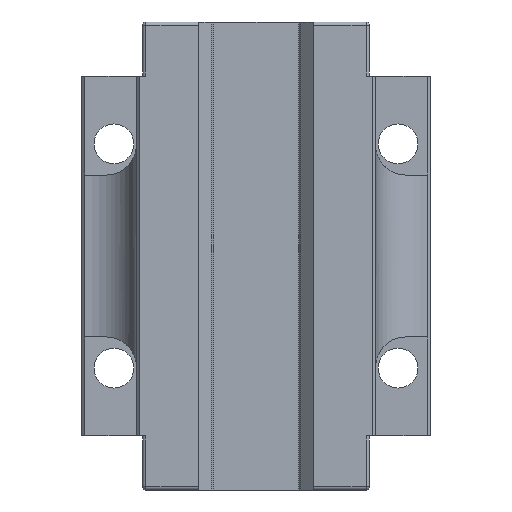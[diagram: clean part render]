
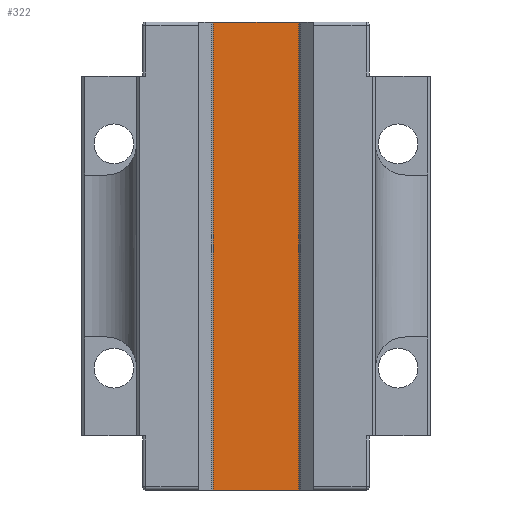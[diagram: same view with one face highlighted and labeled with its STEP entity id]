
A CAD part, front view. The second image highlights one B-rep face of the part: STEP entity #322.
In plain terms, the highlighted planar face has unit normal (0, -1, 0).
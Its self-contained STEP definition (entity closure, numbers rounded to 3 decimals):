
#146 = LINE ( 'NONE', #1291, #1525 ) ;
#313 = ORIENTED_EDGE ( 'NONE', *, *, #351, .T. ) ;
#322 = ADVANCED_FACE ( 'NONE', ( #2135 ), #1058, .F. ) ;
#346 = EDGE_CURVE ( 'NONE', #2897, #2716, #146, .T. ) ;
#351 = EDGE_CURVE ( 'NONE', #1445, #2897, #1028, .T. ) ;
#373 = DIRECTION ( 'NONE',  ( 0., 0., 1. ) ) ;
#452 = CARTESIAN_POINT ( 'NONE',  ( -10.25, 19.2, -46.95 ) ) ;
#493 = CARTESIAN_POINT ( 'NONE',  ( -10.25, 19.2, -46.95 ) ) ;
#530 = LINE ( 'NONE', #2031, #2505 ) ;
#725 = CARTESIAN_POINT ( 'NONE',  ( 10.25, 19.2, -46.95 ) ) ;
#763 = ORIENTED_EDGE ( 'NONE', *, *, #1909, .F. ) ;
#945 = CARTESIAN_POINT ( 'NONE',  ( -10.25, 19.2, 46.95 ) ) ;
#968 = DIRECTION ( 'NONE',  ( -1., 0., 0. ) ) ;
#1028 = LINE ( 'NONE', #2510, #1832 ) ;
#1038 = CARTESIAN_POINT ( 'NONE',  ( -11.5, 19.2, -46.95 ) ) ;
#1058 = PLANE ( 'NONE',  #2662 ) ;
#1111 = LINE ( 'NONE', #452, #2004 ) ;
#1200 = ORIENTED_EDGE ( 'NONE', *, *, #2567, .T. ) ;
#1271 = VERTEX_POINT ( 'NONE', #493 ) ;
#1291 = CARTESIAN_POINT ( 'NONE',  ( -11.5, 19.2, 46.95 ) ) ;
#1445 = VERTEX_POINT ( 'NONE', #725 ) ;
#1524 = ORIENTED_EDGE ( 'NONE', *, *, #346, .T. ) ;
#1525 = VECTOR ( 'NONE', #968, 1000. ) ;
#1629 = EDGE_LOOP ( 'NONE', ( #763, #313, #1524, #1200 ) ) ;
#1689 = CARTESIAN_POINT ( 'NONE',  ( 10.25, 19.2, 46.95 ) ) ;
#1816 = DIRECTION ( 'NONE',  ( 0., 0., -1. ) ) ;
#1832 = VECTOR ( 'NONE', #2740, 1000. ) ;
#1909 = EDGE_CURVE ( 'NONE', #1445, #1271, #530, .T. ) ;
#2004 = VECTOR ( 'NONE', #1816, 1000. ) ;
#2031 = CARTESIAN_POINT ( 'NONE',  ( -11.5, 19.2, -46.95 ) ) ;
#2135 = FACE_OUTER_BOUND ( 'NONE', #1629, .T. ) ;
#2426 = DIRECTION ( 'NONE',  ( 0., 1., 0. ) ) ;
#2505 = VECTOR ( 'NONE', #2506, 1000. ) ;
#2506 = DIRECTION ( 'NONE',  ( -1., 0., 0. ) ) ;
#2510 = CARTESIAN_POINT ( 'NONE',  ( 10.25, 19.2, 46.95 ) ) ;
#2567 = EDGE_CURVE ( 'NONE', #2716, #1271, #1111, .T. ) ;
#2662 = AXIS2_PLACEMENT_3D ( 'NONE', #1038, #2426, #373 ) ;
#2716 = VERTEX_POINT ( 'NONE', #945 ) ;
#2740 = DIRECTION ( 'NONE',  ( 0., 0., 1. ) ) ;
#2897 = VERTEX_POINT ( 'NONE', #1689 ) ;
